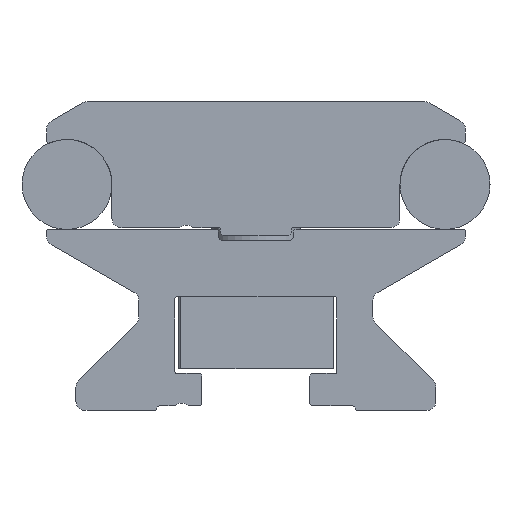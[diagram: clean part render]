
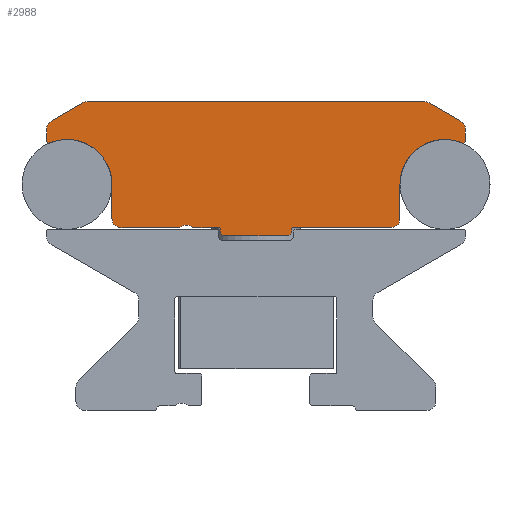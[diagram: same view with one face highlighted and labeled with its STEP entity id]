
A CAD part, left-side view. The second image highlights one B-rep face of the part: STEP entity #2988.
In plain terms, the highlighted planar face has unit normal (-1, 0, 0).
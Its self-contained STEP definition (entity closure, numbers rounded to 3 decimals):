
#89=CIRCLE('',#3211,0.5);
#90=CIRCLE('',#3213,0.5);
#101=CIRCLE('',#3251,1.);
#108=CIRCLE('',#3260,1.);
#110=CIRCLE('',#3264,1.);
#112=CIRCLE('',#3268,0.2);
#114=CIRCLE('',#3271,5.);
#116=CIRCLE('',#3275,1.);
#118=CIRCLE('',#3279,1.);
#124=CIRCLE('',#3287,0.2);
#128=CIRCLE('',#3297,0.2);
#135=CIRCLE('',#3306,1.);
#137=CIRCLE('',#3310,5.);
#139=CIRCLE('',#3313,0.2);
#141=CIRCLE('',#3317,1.);
#252=PLANE('',#3319);
#624=ORIENTED_EDGE('',*,*,#1325,.T.);
#625=ORIENTED_EDGE('',*,*,#1334,.T.);
#626=ORIENTED_EDGE('',*,*,#1337,.T.);
#627=ORIENTED_EDGE('',*,*,#1340,.T.);
#628=ORIENTED_EDGE('',*,*,#1343,.T.);
#629=ORIENTED_EDGE('',*,*,#1346,.T.);
#630=ORIENTED_EDGE('',*,*,#1349,.T.);
#631=ORIENTED_EDGE('',*,*,#1352,.T.);
#632=ORIENTED_EDGE('',*,*,#1355,.T.);
#633=ORIENTED_EDGE('',*,*,#1358,.T.);
#634=ORIENTED_EDGE('',*,*,#1361,.T.);
#635=ORIENTED_EDGE('',*,*,#1364,.T.);
#636=ORIENTED_EDGE('',*,*,#1368,.T.);
#637=ORIENTED_EDGE('',*,*,#1375,.T.);
#638=ORIENTED_EDGE('',*,*,#1377,.T.);
#639=ORIENTED_EDGE('',*,*,#1238,.T.);
#640=ORIENTED_EDGE('',*,*,#1381,.T.);
#641=ORIENTED_EDGE('',*,*,#1242,.T.);
#642=ORIENTED_EDGE('',*,*,#1245,.T.);
#643=ORIENTED_EDGE('',*,*,#1389,.T.);
#644=ORIENTED_EDGE('',*,*,#1396,.T.);
#645=ORIENTED_EDGE('',*,*,#1400,.T.);
#646=ORIENTED_EDGE('',*,*,#1403,.T.);
#647=ORIENTED_EDGE('',*,*,#1406,.T.);
#648=ORIENTED_EDGE('',*,*,#1409,.T.);
#649=ORIENTED_EDGE('',*,*,#1412,.T.);
#650=ORIENTED_EDGE('',*,*,#1415,.T.);
#651=ORIENTED_EDGE('',*,*,#1417,.T.);
#1238=EDGE_CURVE('',#1664,#1667,#89,.T.);
#1242=EDGE_CURVE('',#1668,#1671,#90,.T.);
#1245=EDGE_CURVE('',#1671,#1673,#1959,.T.);
#1325=EDGE_CURVE('',#1731,#1730,#101,.T.);
#1334=EDGE_CURVE('',#1730,#1738,#2006,.T.);
#1337=EDGE_CURVE('',#1738,#1740,#108,.T.);
#1340=EDGE_CURVE('',#1740,#1742,#2010,.T.);
#1343=EDGE_CURVE('',#1742,#1744,#110,.T.);
#1346=EDGE_CURVE('',#1744,#1746,#2014,.T.);
#1349=EDGE_CURVE('',#1746,#1748,#112,.T.);
#1352=EDGE_CURVE('',#1748,#1750,#114,.T.);
#1355=EDGE_CURVE('',#1750,#1752,#2019,.T.);
#1358=EDGE_CURVE('',#1752,#1754,#116,.T.);
#1361=EDGE_CURVE('',#1754,#1756,#2023,.T.);
#1364=EDGE_CURVE('',#1756,#1758,#118,.T.);
#1368=EDGE_CURVE('',#1758,#1760,#2026,.T.);
#1375=EDGE_CURVE('',#1760,#1762,#124,.T.);
#1377=EDGE_CURVE('',#1762,#1664,#2030,.T.);
#1381=EDGE_CURVE('',#1667,#1668,#2031,.T.);
#1389=EDGE_CURVE('',#1673,#1766,#128,.T.);
#1396=EDGE_CURVE('',#1766,#1768,#2038,.T.);
#1400=EDGE_CURVE('',#1768,#1770,#135,.T.);
#1403=EDGE_CURVE('',#1770,#1772,#2042,.T.);
#1406=EDGE_CURVE('',#1772,#1774,#137,.T.);
#1409=EDGE_CURVE('',#1774,#1776,#139,.T.);
#1412=EDGE_CURVE('',#1776,#1778,#2047,.T.);
#1415=EDGE_CURVE('',#1778,#1780,#141,.T.);
#1417=EDGE_CURVE('',#1780,#1731,#2050,.T.);
#1664=VERTEX_POINT('',#4496);
#1667=VERTEX_POINT('',#4505);
#1668=VERTEX_POINT('',#4509);
#1671=VERTEX_POINT('',#4518);
#1673=VERTEX_POINT('',#4524);
#1730=VERTEX_POINT('',#4777);
#1731=VERTEX_POINT('',#4779);
#1738=VERTEX_POINT('',#4795);
#1740=VERTEX_POINT('',#4801);
#1742=VERTEX_POINT('',#4807);
#1744=VERTEX_POINT('',#4813);
#1746=VERTEX_POINT('',#4819);
#1748=VERTEX_POINT('',#4825);
#1750=VERTEX_POINT('',#4831);
#1752=VERTEX_POINT('',#4837);
#1754=VERTEX_POINT('',#4843);
#1756=VERTEX_POINT('',#4849);
#1758=VERTEX_POINT('',#4855);
#1760=VERTEX_POINT('',#4862);
#1762=VERTEX_POINT('',#4875);
#1766=VERTEX_POINT('',#4910);
#1768=VERTEX_POINT('',#4920);
#1770=VERTEX_POINT('',#4927);
#1772=VERTEX_POINT('',#4933);
#1774=VERTEX_POINT('',#4939);
#1776=VERTEX_POINT('',#4945);
#1778=VERTEX_POINT('',#4951);
#1780=VERTEX_POINT('',#4957);
#1959=LINE('',#4525,#2213);
#2006=LINE('',#4796,#2260);
#2010=LINE('',#4808,#2264);
#2014=LINE('',#4820,#2268);
#2019=LINE('',#4838,#2273);
#2023=LINE('',#4850,#2277);
#2026=LINE('',#4863,#2280);
#2030=LINE('',#4879,#2284);
#2031=LINE('',#4889,#2285);
#2038=LINE('',#4921,#2292);
#2042=LINE('',#4934,#2296);
#2047=LINE('',#4952,#2301);
#2050=LINE('',#4961,#2304);
#2213=VECTOR('',#3570,1000.);
#2260=VECTOR('',#3703,1000.);
#2264=VECTOR('',#3715,1000.);
#2268=VECTOR('',#3727,1000.);
#2273=VECTOR('',#3746,1000.);
#2277=VECTOR('',#3758,1000.);
#2280=VECTOR('',#3773,1000.);
#2284=VECTOR('',#3789,1000.);
#2285=VECTOR('',#3798,1000.);
#2292=VECTOR('',#3825,1000.);
#2296=VECTOR('',#3839,1000.);
#2301=VECTOR('',#3858,1000.);
#2304=VECTOR('',#3869,1000.);
#2513=EDGE_LOOP('',(#624,#625,#626,#627,#628,#629,#630,#631,#632,#633,#634,
#635,#636,#637,#638,#639,#640,#641,#642,#643,#644,#645,#646,#647,#648,#649,
#650,#651));
#2713=FACE_BOUND('',#2513,.T.);
#2988=ADVANCED_FACE('',(#2713),#252,.T.);
#3211=AXIS2_PLACEMENT_3D('',#4506,#3558,#3559);
#3213=AXIS2_PLACEMENT_3D('',#4519,#3564,#3565);
#3251=AXIS2_PLACEMENT_3D('',#4778,#3686,#3687);
#3260=AXIS2_PLACEMENT_3D('',#4802,#3709,#3710);
#3264=AXIS2_PLACEMENT_3D('',#4814,#3721,#3722);
#3268=AXIS2_PLACEMENT_3D('',#4826,#3733,#3734);
#3271=AXIS2_PLACEMENT_3D('',#4832,#3740,#3741);
#3275=AXIS2_PLACEMENT_3D('',#4844,#3752,#3753);
#3279=AXIS2_PLACEMENT_3D('',#4856,#3764,#3765);
#3287=AXIS2_PLACEMENT_3D('',#4876,#3784,#3785);
#3297=AXIS2_PLACEMENT_3D('',#4911,#3811,#3812);
#3306=AXIS2_PLACEMENT_3D('',#4928,#3833,#3834);
#3310=AXIS2_PLACEMENT_3D('',#4940,#3845,#3846);
#3313=AXIS2_PLACEMENT_3D('',#4946,#3852,#3853);
#3317=AXIS2_PLACEMENT_3D('',#4958,#3864,#3865);
#3319=AXIS2_PLACEMENT_3D('',#4962,#3870,#3871);
#3558=DIRECTION('',(-1.,0.,0.));
#3559=DIRECTION('',(0.,-1.,0.));
#3564=DIRECTION('',(-1.,0.,0.));
#3565=DIRECTION('',(0.,1.,0.));
#3570=DIRECTION('',(0.,0.,1.));
#3686=DIRECTION('',(-1.,0.,0.));
#3687=DIRECTION('',(0.,1.,0.));
#3703=DIRECTION('',(0.,1.,0.));
#3709=DIRECTION('',(-1.,0.,0.));
#3710=DIRECTION('',(0.,1.,0.));
#3715=DIRECTION('',(0.,0.866,-0.5));
#3721=DIRECTION('',(-1.,0.,0.));
#3722=DIRECTION('',(0.,-1.,0.));
#3727=DIRECTION('',(0.,0.,-1.));
#3733=DIRECTION('',(-1.,0.,0.));
#3734=DIRECTION('',(0.,-1.,0.));
#3740=DIRECTION('',(1.,0.,0.));
#3741=DIRECTION('',(0.,1.,0.));
#3746=DIRECTION('',(0.,0.,-1.));
#3752=DIRECTION('',(-1.,0.,0.));
#3753=DIRECTION('',(0.,-1.,0.));
#3758=DIRECTION('',(0.,-1.,0.));
#3764=DIRECTION('',(1.,0.,0.));
#3765=DIRECTION('',(0.,1.,0.));
#3773=DIRECTION('',(0.,-1.,0.));
#3784=DIRECTION('',(1.,0.,0.));
#3785=DIRECTION('',(0.,1.,0.));
#3789=DIRECTION('',(0.,0.,-1.));
#3798=DIRECTION('',(0.,-1.,0.));
#3811=DIRECTION('',(1.,0.,0.));
#3812=DIRECTION('',(0.,1.,0.));
#3825=DIRECTION('',(0.,-1.,0.));
#3833=DIRECTION('',(-1.,0.,0.));
#3834=DIRECTION('',(0.,1.,0.));
#3839=DIRECTION('',(0.,0.,1.));
#3845=DIRECTION('',(1.,0.,0.));
#3846=DIRECTION('',(0.,1.,0.));
#3852=DIRECTION('',(-1.,0.,0.));
#3853=DIRECTION('',(0.,1.,0.));
#3858=DIRECTION('',(0.,0.,1.));
#3864=DIRECTION('',(-1.,0.,0.));
#3865=DIRECTION('',(0.,1.,0.));
#3869=DIRECTION('',(0.,0.866,0.5));
#3870=DIRECTION('',(-1.,0.,0.));
#3871=DIRECTION('',(0.,-1.,0.));
#4496=CARTESIAN_POINT('',(-600.,153.34,114.744));
#4505=CARTESIAN_POINT('',(-600.,152.84,114.244));
#4506=CARTESIAN_POINT('',(-600.,152.84,114.744));
#4509=CARTESIAN_POINT('',(-600.,145.94,114.244));
#4518=CARTESIAN_POINT('',(-600.,145.44,114.744));
#4519=CARTESIAN_POINT('',(-600.,145.94,114.744));
#4524=CARTESIAN_POINT('',(-600.,145.44,114.944));
#4525=CARTESIAN_POINT('',(-600.,145.44,114.744));
#4777=CARTESIAN_POINT('',(-600.,130.64,129.144));
#4778=CARTESIAN_POINT('',(-600.,130.64,128.144));
#4779=CARTESIAN_POINT('',(-600.,130.14,129.01));
#4795=CARTESIAN_POINT('',(-600.,168.14,129.144));
#4796=CARTESIAN_POINT('',(-600.,130.64,129.144));
#4801=CARTESIAN_POINT('',(-600.,168.64,129.01));
#4802=CARTESIAN_POINT('',(-600.,168.14,128.144));
#4807=CARTESIAN_POINT('',(-600.,172.14,126.989));
#4808=CARTESIAN_POINT('',(-600.,168.64,129.01));
#4813=CARTESIAN_POINT('',(-600.,172.64,126.123));
#4814=CARTESIAN_POINT('',(-600.,171.64,126.123));
#4819=CARTESIAN_POINT('',(-600.,172.64,124.723));
#4820=CARTESIAN_POINT('',(-600.,172.64,126.123));
#4825=CARTESIAN_POINT('',(-600.,172.361,124.539));
#4826=CARTESIAN_POINT('',(-600.,172.44,124.723));
#4831=CARTESIAN_POINT('',(-600.,165.39,119.944));
#4832=CARTESIAN_POINT('',(-600.,170.39,119.944));
#4837=CARTESIAN_POINT('',(-600.,165.39,116.144));
#4838=CARTESIAN_POINT('',(-600.,165.39,119.944));
#4843=CARTESIAN_POINT('',(-600.,164.39,115.144));
#4844=CARTESIAN_POINT('',(-600.,164.39,116.144));
#4849=CARTESIAN_POINT('',(-600.,157.854,115.144));
#4850=CARTESIAN_POINT('',(-600.,164.39,115.144));
#4855=CARTESIAN_POINT('',(-600.,156.426,115.144));
#4856=CARTESIAN_POINT('',(-600.,157.14,114.444));
#4862=CARTESIAN_POINT('',(-600.,153.54,115.144));
#4863=CARTESIAN_POINT('',(-600.,156.426,115.144));
#4875=CARTESIAN_POINT('',(-600.,153.34,114.944));
#4876=CARTESIAN_POINT('',(-600.,153.54,114.944));
#4879=CARTESIAN_POINT('',(-600.,153.34,114.944));
#4889=CARTESIAN_POINT('',(-600.,152.84,114.244));
#4910=CARTESIAN_POINT('',(-600.,145.24,115.144));
#4911=CARTESIAN_POINT('',(-600.,145.24,114.944));
#4920=CARTESIAN_POINT('',(-600.,134.39,115.144));
#4921=CARTESIAN_POINT('',(-600.,145.24,115.144));
#4927=CARTESIAN_POINT('',(-600.,133.39,116.144));
#4928=CARTESIAN_POINT('',(-600.,134.39,116.144));
#4933=CARTESIAN_POINT('',(-600.,133.39,119.944));
#4934=CARTESIAN_POINT('',(-600.,133.39,116.144));
#4939=CARTESIAN_POINT('',(-600.,126.419,124.539));
#4940=CARTESIAN_POINT('',(-600.,128.39,119.944));
#4945=CARTESIAN_POINT('',(-600.,126.14,124.723));
#4946=CARTESIAN_POINT('',(-600.,126.34,124.723));
#4951=CARTESIAN_POINT('',(-600.,126.14,126.123));
#4952=CARTESIAN_POINT('',(-600.,126.14,124.723));
#4957=CARTESIAN_POINT('',(-600.,126.64,126.989));
#4958=CARTESIAN_POINT('',(-600.,127.14,126.123));
#4961=CARTESIAN_POINT('',(-600.,126.64,126.989));
#4962=CARTESIAN_POINT('',(-600.,130.64,128.144));
